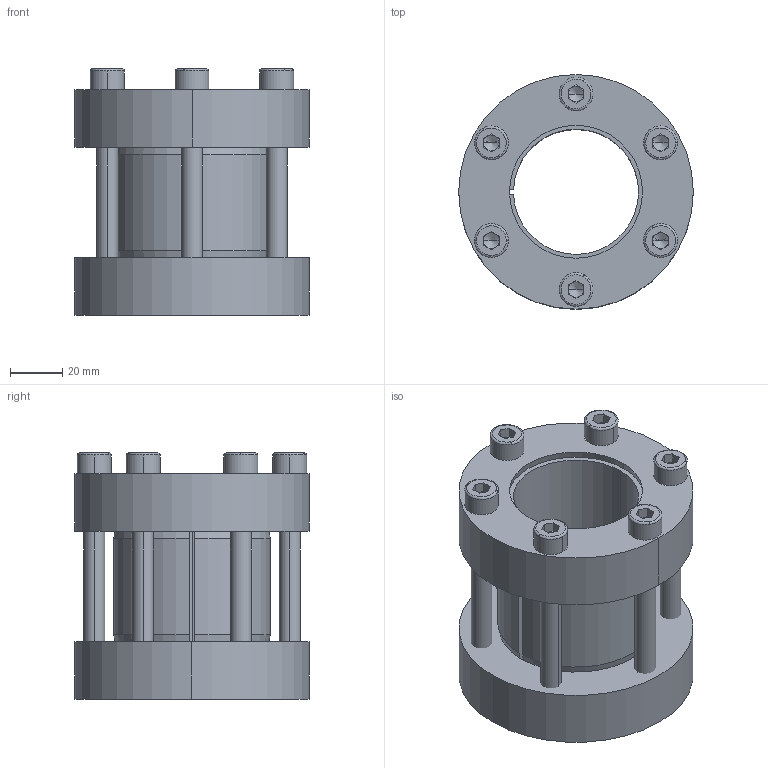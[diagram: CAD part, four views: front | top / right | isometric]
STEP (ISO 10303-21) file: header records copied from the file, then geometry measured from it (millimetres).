
FILE_DESCRIPTION (( 'STEP AP214' ), '1' );
FILE_NAME ('CONEX-M-48x90.STEP', '2019-03-25T16:36:09', ( '' ), ( '' ), 'SwSTEP 2.0', 'SolidWorks 2018', '' );
FILE_SCHEMA (( 'AUTOMOTIVE_DESIGN' ));
Length unit declared in the file: millimetre
Products named in the file (1): CONEX-M-48x90
Bounding box: 90 x 90 x 94.49 mm (x, y, z)
Volume: 257531.4 mm3; surface area: 72003.2 mm2
Topology: 7 solids, 7 shells, 208 faces, 500 edges, 306 vertices
Faces by surface type: plane 98, cylinder 55, cone 31, bspline 24
Entity records: 7184 total; most frequent: CARTESIAN_POINT 2113, DIRECTION 1048, ORIENTED_EDGE 976, EDGE_CURVE 488, AXIS2_PLACEMENT_3D 407, VERTEX_POINT 306, EDGE_LOOP 248, VECTOR 234
